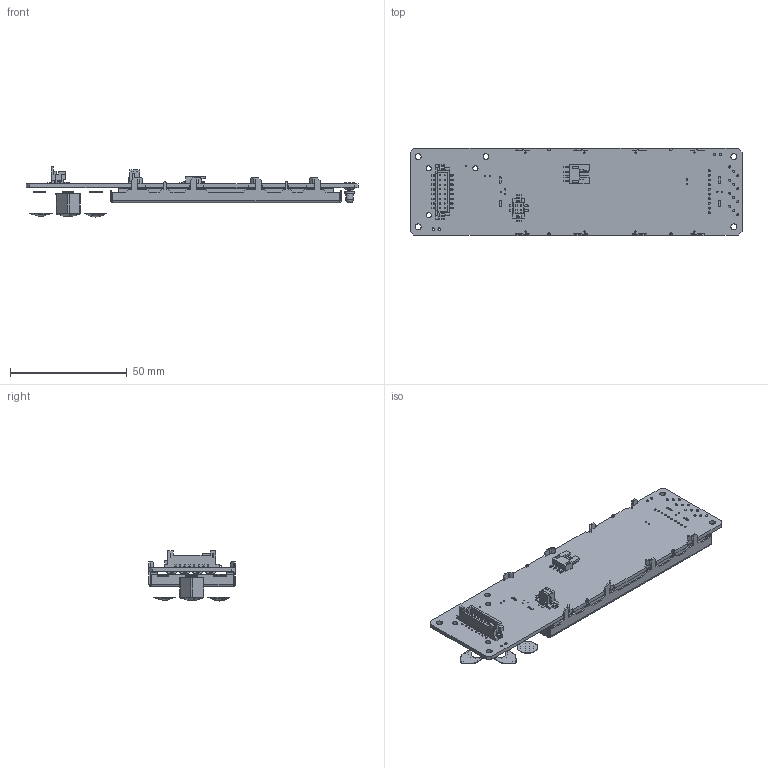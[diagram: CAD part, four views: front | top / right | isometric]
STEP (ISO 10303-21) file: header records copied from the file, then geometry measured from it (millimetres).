
FILE_DESCRIPTION (( 'STEP AP214' ), '1' );
FILE_NAME ('CFA635_1v5.STEP', '2023-02-03T16:34:05', ( '' ), ( '' ), 'SwSTEP 2.0', 'SolidWorks 2021', '' );
FILE_SCHEMA (( 'AUTOMOTIVE_DESIGN' ));
Length unit declared in the file: millimetre
Products named in the file (13): CFA635_glass; CFA635_bezel; Lumex_SSL-LX30591GW_bicolor_LED; CFA635_keypad; keypad_silicone; 95000004; CFA635_elastomer_connector; CFA-635_1v5_BOARD; 835_Keypad_epoxy; CFA-635_1v5; DF11G-16DP-2V; CFA635_1v5; DF11CZ-4DS-2V.stp
Assembly tree (16 placements, depth 3):
  CFA635_1v5
    CFA-635_1v5
      CFA-635_1v5_BOARD
    DF11G-16DP-2V
    95000004
    CFA635_elastomer_connector  x2
    CFA635_glass
    CFA635_bezel
    CFA635_keypad
      835_Keypad_epoxy
      keypad_silicone
    Lumex_SSL-LX30591GW_bicolor_LED  x4
    DF11CZ-4DS-2V.stp
Bounding box: 142 x 37.2 x 21.48 mm (x, y, z)
Volume: 19330.4 mm3; surface area: 30163.2 mm2
Topology: 31 solids, 31 shells, 3482 faces, 9001 edges, 5871 vertices
Faces by surface type: plane 2587, cylinder 503, bspline 342, torus 32, sphere 10, cone 8
Entity records: 165824 total; most frequent: CARTESIAN_POINT 48700, ORIENTED_EDGE 20054, DIRECTION 16844, EDGE_CURVE 10027, LINE 7652, VECTOR 7652, VERTEX_POINT 6587, AXIS2_PLACEMENT_3D 4596
